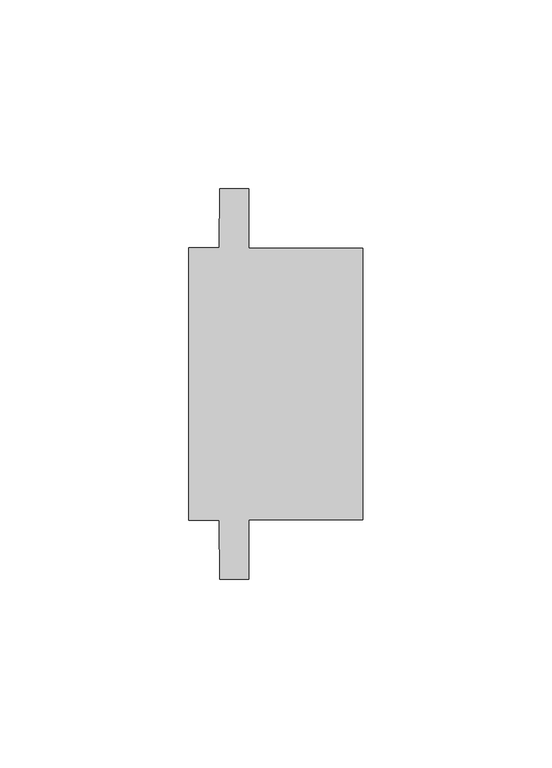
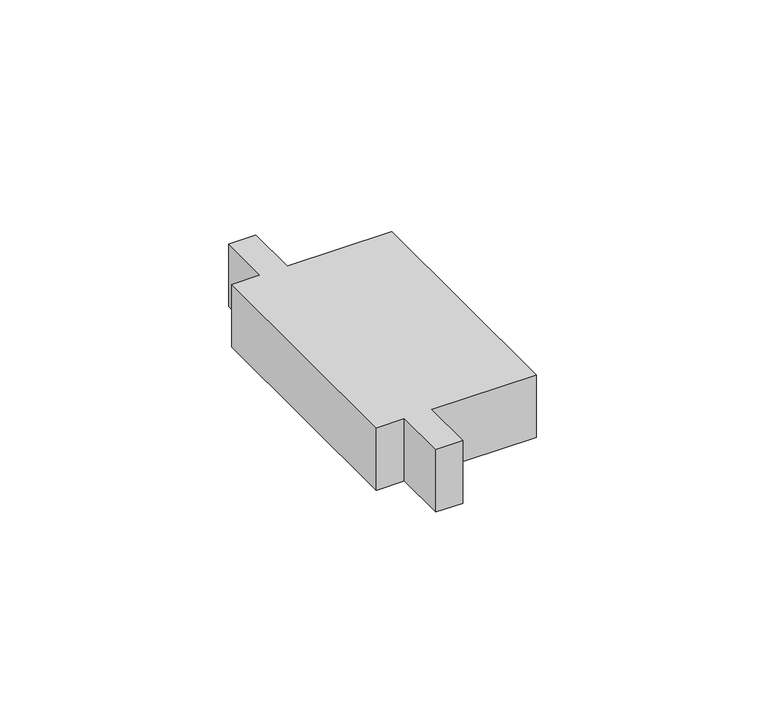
"""IFC4 building model written with IfcOpenShell, lengths in millimetres: proxy geometry, Reinforcement-block KP-LRB150 : Reinforcement-Block KP-LRB150."""

from ifc_helpers import new_model, si_unit, frame, origin, place, context, project, spatial, polyline, outline, extrude, source, transform, mapped, element, save


def generic_models_a85a8350(model_context):
    return source(origin(), model_context, "Body", "SweptSolid", [
        extrude(outline(polyline([(-38.0, 36.0106549), (-37.8673, 51.6503549), (-30.1327, 51.6503549), (-30.1327, 35.9893451), (0.0, 35.9893451), (0.0, -35.9893451), (-30.1327, -35.9893451), (-30.1327, -51.6503549), (-37.8673, -51.6503549), (-38.0, -36.0106549), (-46.0, -36.0106549), (-46.0, 36.0106549), (-38.0, 36.0106549)])), frame((0.0, 0.0, -19.05), z_axis=(0.0, 0.0, 1.0), x_axis=(1.0, 0.0, 0.0)), (0.0, 0.0, 1.0), 19.05),
    ])


if __name__ == "__main__":
    model = new_model("IFC4")
    model_context = context("Model", 3, world=origin())
    ifc_project = project(units=[si_unit("LENGTHUNIT", "METRE", prefix="MILLI")], contexts=[model_context])
    site = spatial("IfcSite", under=ifc_project)
    building = spatial("IfcBuilding", under=site)
    placement = place(None, origin())
    generic_models_shape = generic_models_a85a8350(model_context)
    element("IfcBuildingElementProxy", 1, Name="Reinforcement-block KP-LRB150 : Reinforcement-Block KP-LRB150", ObjectType="Reinforcement-block KP-LRB150 : Reinforcement-Block KP-LRB150", at=placement, inside=building, context=model_context, shape_type="MappedRepresentation", body=[
        mapped(generic_models_shape, transform((0.0, 0.0, 0.0), x_axis=(1.0, 0.0, 0.0), y_axis=(0.0, 1.0, 0.0), z_axis=(0.0, 0.0, 1.0))),
    ])
    save(model, "model.ifc")
